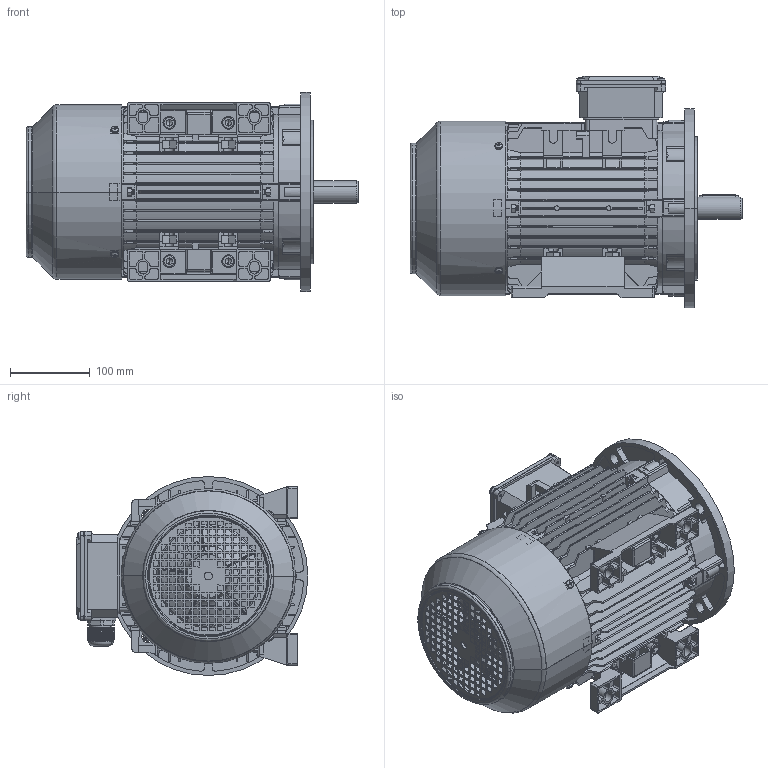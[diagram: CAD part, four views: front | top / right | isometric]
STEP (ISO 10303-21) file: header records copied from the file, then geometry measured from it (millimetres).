
FILE_DESCRIPTION (( 'STEP AP203' ), '1' );
FILE_NAME ('T112 B35(源樓酗).STEP', '2018-01-17T08:33:11', ( 'Users' ), ( 'Microsoft' ), 'SwSTEP 2.0', 'SolidWorks 2008', '' );
FILE_SCHEMA (( 'CONFIG_CONTROL_DESIGN' ));
Length unit declared in the file: millimetre
Products named in the file (17): T112加深后盖_默认; Hexagon socket head cap screws GB_GB_FASTENER_SCREWS_HSHCS M10X25-N; Hexagon nuts grade C GB_GB_FASTENER_NUT_SNC1 M10-N; Hexagon nuts grade C GB_GB_FASTENER_NUT_SNC1 M6-N; 112-132出线螺套_默认; Cross recessed thread forming screws GB_GB_CROSS_SCREWS_TYPE138 M5X12-N; T112 B35(源樓酗); T112机壳_默认; T112底脚_默认; TA112风罩（加长）_默认; MS112 风叶_默认; T112转轴(加长)_默认; Plain parallel keys_GB_CONNECTING_PIECE_KEYS_CSK 8X50; TA112B5法兰1_默认; Hexagon socket head cap screws GB_GB_FASTENER_SCREWS_HSHCS M6X30-N; MS132接线盒座_默认; MS132接线盒盖_默认
Assembly tree (45 placements, depth 2):
  T112 B35(源樓酗)
    Cross recessed thread forming screws GB_GB_CROSS_SCREWS_TYPE138 M5X12-N  x8
    Hexagon nuts grade C GB_GB_FASTENER_NUT_SNC1 M6-N  x8
    Hexagon socket head cap screws GB_GB_FASTENER_SCREWS_HSHCS M6X30-N  x8
    T112底脚_默认  x2
    Plain parallel keys_GB_CONNECTING_PIECE_KEYS_CSK 8X50
    Hexagon socket head cap screws GB_GB_FASTENER_SCREWS_HSHCS M10X25-N  x4
    MS132接线盒座_默认
    Hexagon nuts grade C GB_GB_FASTENER_NUT_SNC1 M10-N  x4
    T112转轴(加长)_默认
    T112加深后盖_默认
    TA112风罩（加长）_默认
    T112机壳_默认
    TA112B5法兰1_默认
    MS132接线盒盖_默认
    112-132出线螺套_默认  x2
    MS112 风叶_默认
Bounding box: 417 x 291 x 250 mm (x, y, z)
Volume: 2514532.3 mm3; surface area: 1373953.4 mm2
Topology: 45 solids, 45 shells, 4570 faces, 12482 edges, 8093 vertices
Faces by surface type: plane 2881, cylinder 1131, cone 302, torus 164, sphere 64, bspline 28
Entity records: 124175 total; most frequent: CARTESIAN_POINT 30322, ORIENTED_EDGE 19906, DIRECTION 17855, EDGE_CURVE 9953, VECTOR 6499, LINE 6499, VERTEX_POINT 6497, AXIS2_PLACEMENT_3D 5678
